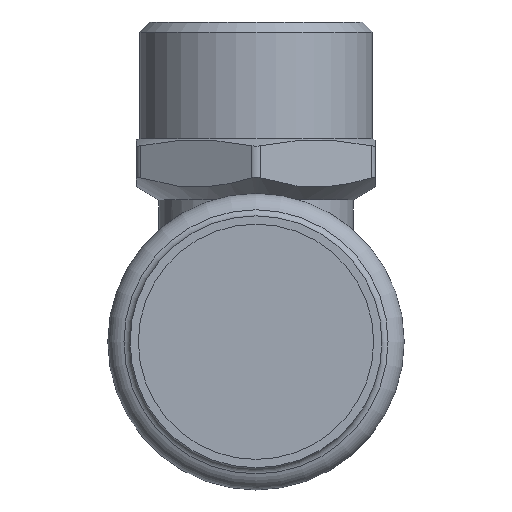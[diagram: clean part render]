
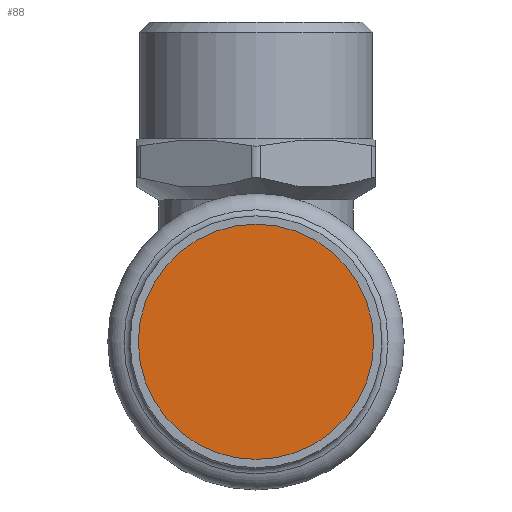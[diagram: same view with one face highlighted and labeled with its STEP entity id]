
A CAD part, front view. The second image highlights one B-rep face of the part: STEP entity #88.
In plain terms, the highlighted planar face has unit normal (0, -1, 0).
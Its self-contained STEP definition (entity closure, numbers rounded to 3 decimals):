
#88=ADVANCED_FACE('',(#381),#383,.T.);
#381=FACE_BOUND('',#382,.T.);
#382=EDGE_LOOP('',(#521));
#383=PLANE('',#384);
#384=AXIS2_PLACEMENT_3D('',#385,#386,#387);
#385=CARTESIAN_POINT('',(0.,-60.292,0.));
#386=DIRECTION('',(0.,-1.,0.));
#387=DIRECTION('',(0.,0.,-1.));
#521=ORIENTED_EDGE('',*,*,#585,.T.);
#585=EDGE_CURVE('',#699,#699,#700,.F.);
#699=VERTEX_POINT('',#2113);
#700=CIRCLE('',#2114,21.15);
#2113=CARTESIAN_POINT('',(0.,-60.292,21.15));
#2114=AXIS2_PLACEMENT_3D('',#2115,#2116,#2117);
#2115=CARTESIAN_POINT('',(0.,-60.292,0.));
#2116=DIRECTION('',(0.,1.,0.));
#2117=DIRECTION('',(0.,0.,1.));
